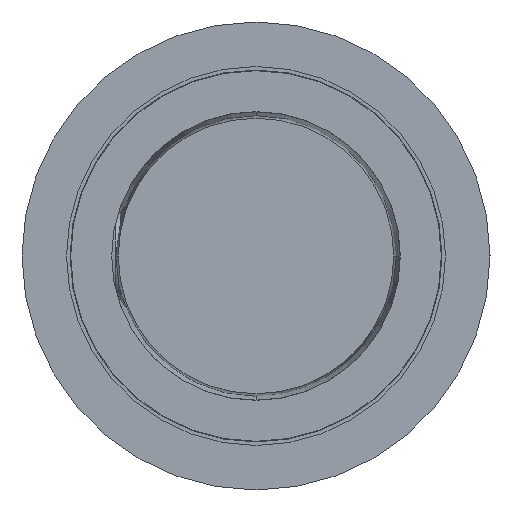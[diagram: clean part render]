
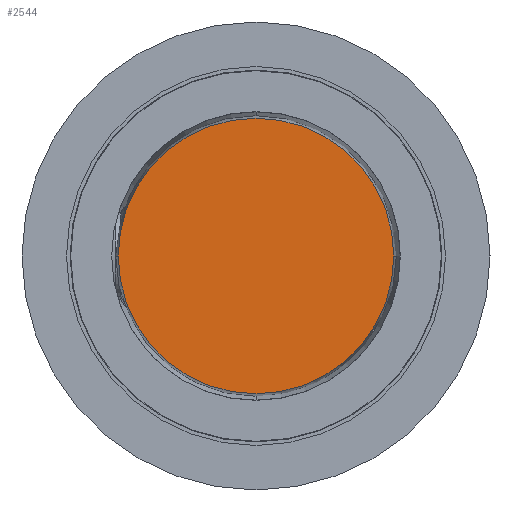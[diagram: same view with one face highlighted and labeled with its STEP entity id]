
A CAD part, left-side view. The second image highlights one B-rep face of the part: STEP entity #2544.
In plain terms, the highlighted planar face has unit normal (-1, 0, 0) as drawn and (0, -1, 0) by its records, which use the part's own axes.
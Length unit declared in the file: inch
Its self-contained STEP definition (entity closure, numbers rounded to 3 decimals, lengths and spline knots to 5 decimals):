
#121 = DIRECTION ( 'NONE',  ( 0., 0., 1. ) ) ;
#131 = CIRCLE ( 'NONE', #5656, 0.116 ) ;
#302 = CARTESIAN_POINT ( 'NONE',  ( 0., -0.0625, 0. ) ) ;
#609 = PLANE ( 'NONE',  #6765 ) ;
#768 = EDGE_CURVE ( 'NONE', #2154, #4048, #131, .T. ) ;
#1541 = EDGE_LOOP ( 'NONE', ( #6210, #5548 ) ) ;
#1562 = CARTESIAN_POINT ( 'NONE',  ( 0., -0.0625, 0.116 ) ) ;
#2154 = VERTEX_POINT ( 'NONE', #6150 ) ;
#2356 = CARTESIAN_POINT ( 'NONE',  ( 0., -0.0625, 0. ) ) ;
#2410 = DIRECTION ( 'NONE',  ( 0., 1., 0. ) ) ;
#2544 = ADVANCED_FACE ( 'NONE', ( #7082 ), #609, .F. ) ;
#3122 = CARTESIAN_POINT ( 'NONE',  ( 0., -0.0625, 0. ) ) ;
#3733 = DIRECTION ( 'NONE',  ( 0., 1., 0. ) ) ;
#4048 = VERTEX_POINT ( 'NONE', #1562 ) ;
#4162 = DIRECTION ( 'NONE',  ( 0., 0., 1. ) ) ;
#5439 = CIRCLE ( 'NONE', #6941, 0.116 ) ;
#5489 = EDGE_CURVE ( 'NONE', #4048, #2154, #5439, .T. ) ;
#5548 = ORIENTED_EDGE ( 'NONE', *, *, #5489, .F. ) ;
#5656 = AXIS2_PLACEMENT_3D ( 'NONE', #3122, #3733, #121 ) ;
#5757 = DIRECTION ( 'NONE',  ( 0., 1., 0. ) ) ;
#6150 = CARTESIAN_POINT ( 'NONE',  ( 0., -0.0625, -0.116 ) ) ;
#6210 = ORIENTED_EDGE ( 'NONE', *, *, #768, .F. ) ;
#6355 = DIRECTION ( 'NONE',  ( 0., 0., 1. ) ) ;
#6765 = AXIS2_PLACEMENT_3D ( 'NONE', #2356, #2410, #4162 ) ;
#6941 = AXIS2_PLACEMENT_3D ( 'NONE', #302, #5757, #6355 ) ;
#7082 = FACE_OUTER_BOUND ( 'NONE', #1541, .T. ) ;
